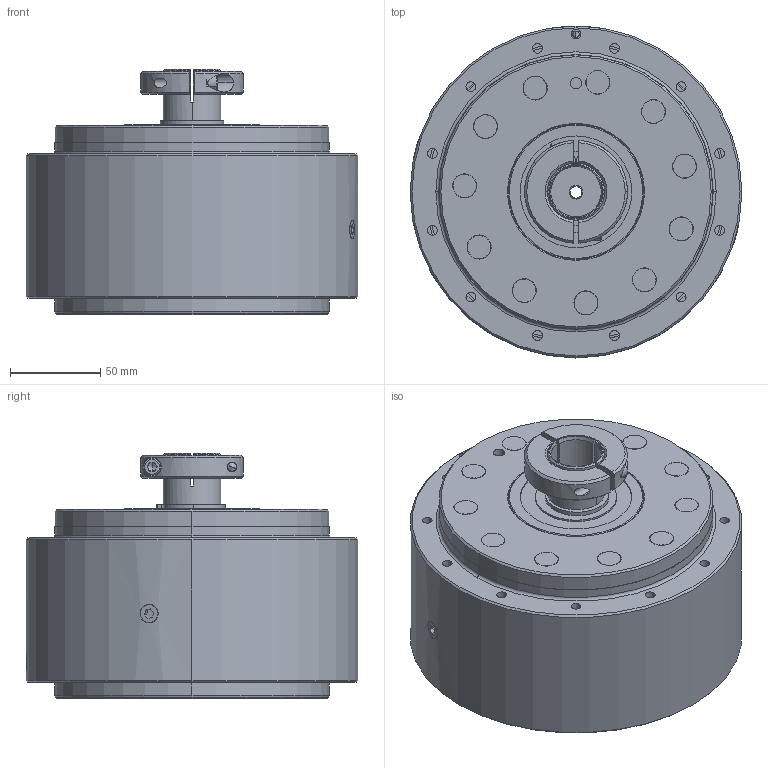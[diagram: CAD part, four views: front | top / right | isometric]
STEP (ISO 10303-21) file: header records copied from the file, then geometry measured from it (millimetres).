
FILE_DESCRIPTION (( 'STEP AP214' ), '1' );
FILE_NAME ('DM24RRRFTLN0000.STEP', '2019-10-30T16:59:33', ( '' ), ( '' ), 'SwSTEP 2.0', 'SolidWorks 2019', '' );
FILE_SCHEMA (( 'AUTOMOTIVE_DESIGN' ));
Length unit declared in the file: millimetre
Products named in the file (1): DM24RRRFTLN0000
Bounding box: 184.15 x 184.15 x 136.37 mm (x, y, z)
Surface area: 160128.9 mm2 (no closed solid volume)
Topology: 0 solids, 32 shells, 340 faces, 950 edges, 634 vertices
Faces by surface type: cylinder 161, plane 90, cone 77, torus 12
Entity records: 15521 total; most frequent: CARTESIAN_POINT 2851, DIRECTION 2033, ORIENTED_EDGE 1594, EDGE_CURVE 946, AXIS2_PLACEMENT_3D 820, VERTEX_POINT 634, CIRCLE 479, EDGE_LOOP 413
